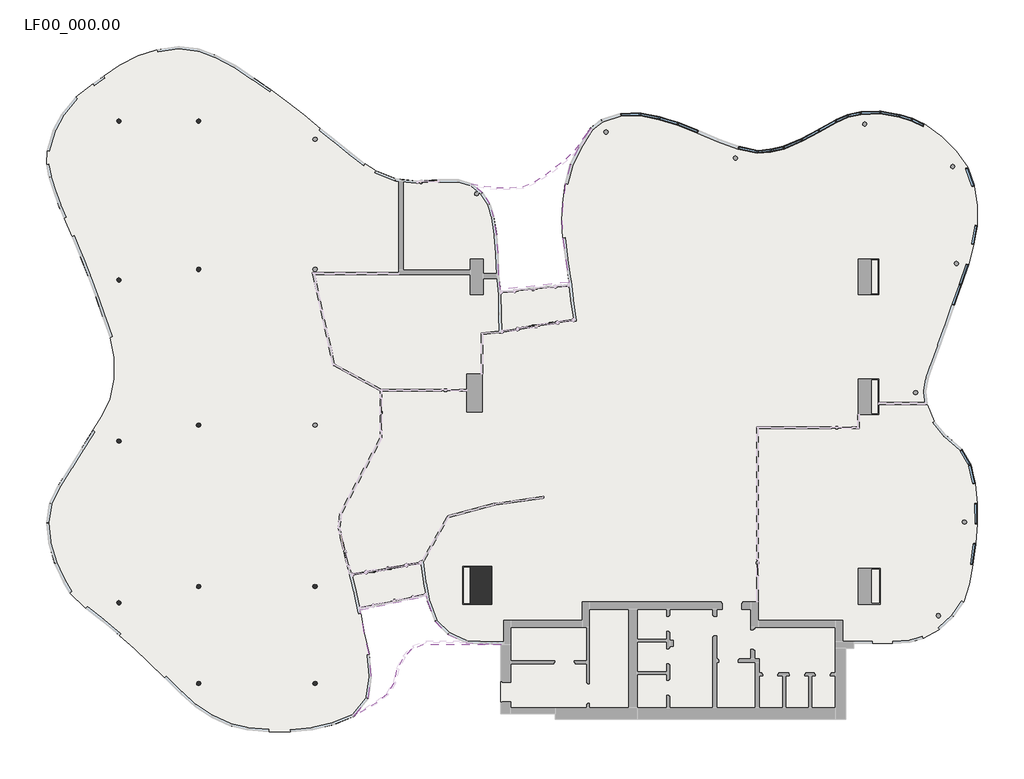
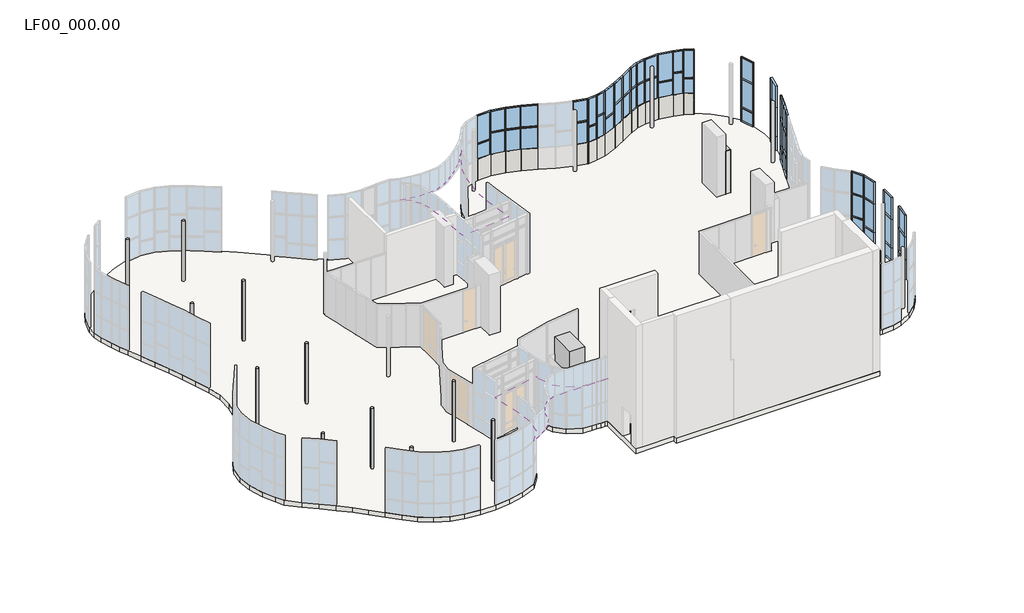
# One storey, part 6 of 8: 24 windows, 19 walls, 12 columns, 2 coverings, 1 slab.
"""IFC4 building model written with IfcOpenShell, lengths in millimetres."""

from ifc_helpers import new_model, si_unit, frame, origin, origin_with_axes, place, context, project, spatial, polyline, outline, extrude, faceted_brep, transform, mapped, element, save
from components import pilastro_in_calcestruzzo_circolare_200_a869e825, pilastro_in_calcestruzzo_rettangolare_0d96be71, window_13cf38aa, window_04857959, window_36c3ef3e, window_b5501017, window_16313ac1, window_0b33e4cf, window_09fc64a4, window_a744d560, window_feeec594, window_dc9eccbe, window_f09dee8b

model = new_model("IFC4")

# Units and contexts
model_context = context("Model", 3, world=origin())
ifc_project = project(units=[si_unit("LENGTHUNIT", "METRE", prefix="MILLI")], contexts=[model_context])

# Site, building, storey
site = spatial("IfcSite", under=ifc_project)
building = spatial("IfcBuilding", under=site)
storey = spatial("IfcBuildingStorey", under=building, Name="LF00_000.00", Elevation=0.0)

# Columns
placement = place(None, origin())
pilastro_in_calcestruzzo_circolare_200_shape = pilastro_in_calcestruzzo_circolare_200_a869e825(model_context)
element("IfcColumn", 1, ObjectType="Pilastro in calcestruzzo - Circolare : 200", at=placement, inside=storey, context=model_context, shape_type="MappedRepresentation", body=[
    mapped(pilastro_in_calcestruzzo_circolare_200_shape, transform((-103126.4247466, 2066.2733792, 0.0), x_axis=(1.0, 0.0, 0.0), y_axis=(0.0, 1.0, 0.0), z_axis=(0.0, 0.0, 1.0))),
])
element("IfcColumn", 2, ObjectType="Pilastro in calcestruzzo - Circolare : 200", at=placement, inside=storey, context=model_context, shape_type="MappedRepresentation", body=[
    mapped(pilastro_in_calcestruzzo_circolare_200_shape, transform((-99426.0071195, 2816.2402341, 0.0), x_axis=(1.0, 0.0, 0.0), y_axis=(0.0, 1.0, 0.0), z_axis=(0.0, 0.0, 1.0))),
])
element("IfcColumn", 3, ObjectType="Pilastro in calcestruzzo - Circolare : 200", at=placement, inside=storey, context=model_context, shape_type="MappedRepresentation", body=[
    mapped(pilastro_in_calcestruzzo_circolare_200_shape, transform((-94028.3747, 2816.234202, 0.0), x_axis=(1.0, 0.0, 0.0), y_axis=(0.0, 1.0, 0.0), z_axis=(0.0, 0.0, 1.0))),
])
element("IfcColumn", 4, ObjectType="Pilastro in calcestruzzo - Circolare : 200", at=placement, inside=storey, context=model_context, shape_type="MappedRepresentation", body=[
    mapped(pilastro_in_calcestruzzo_circolare_200_shape, transform((-103126.4247466, 9566.2462002, 0.0), x_axis=(1.0, 0.0, 0.0), y_axis=(0.0, 1.0, 0.0), z_axis=(0.0, 0.0, 1.0))),
])
element("IfcColumn", 5, ObjectType="Pilastro in calcestruzzo - Circolare : 200", at=placement, inside=storey, context=model_context, shape_type="MappedRepresentation", body=[
    mapped(pilastro_in_calcestruzzo_circolare_200_shape, transform((-99426.1905039, 10316.2342028, 0.0), x_axis=(1.0, 0.0, 0.0), y_axis=(0.0, 1.0, 0.0), z_axis=(0.0, 0.0, 1.0))),
])
element("IfcColumn", 6, ObjectType="Pilastro in calcestruzzo - Circolare : 200", at=placement, inside=storey, context=model_context, shape_type="MappedRepresentation", body=[
    mapped(pilastro_in_calcestruzzo_circolare_200_shape, transform((-103126.4247466, 17051.2461982, 0.0), x_axis=(1.0, 0.0, 0.0), y_axis=(0.0, 1.0, 0.0), z_axis=(0.0, 0.0, 1.0))),
])
element("IfcColumn", 7, ObjectType="Pilastro in calcestruzzo - Circolare : 200", at=placement, inside=storey, context=model_context, shape_type="MappedRepresentation", body=[
    mapped(pilastro_in_calcestruzzo_circolare_200_shape, transform((-103126.4247466, 24428.4209309, 0.0), x_axis=(1.0, 0.0, 0.0), y_axis=(0.0, 1.0, 0.0), z_axis=(0.0, 0.0, 1.0))),
])
element("IfcColumn", 8, ObjectType="Pilastro in calcestruzzo - Circolare : 200", at=placement, inside=storey, context=model_context, shape_type="MappedRepresentation", body=[
    mapped(pilastro_in_calcestruzzo_circolare_200_shape, transform((-99426.6293798, 24428.4209309, 0.0), x_axis=(1.0, 0.0, 0.0), y_axis=(0.0, 1.0, 0.0), z_axis=(0.0, 0.0, 1.0))),
])
element("IfcColumn", 9, ObjectType="Pilastro in calcestruzzo - Circolare : 200", at=placement, inside=storey, context=model_context, shape_type="MappedRepresentation", body=[
    mapped(pilastro_in_calcestruzzo_circolare_200_shape, transform((-99426.0071195, 17543.4210334, 0.0), x_axis=(1.0, 0.0, 0.0), y_axis=(0.0, 1.0, 0.0), z_axis=(0.0, 0.0, 1.0))),
])
element("IfcColumn", 10, ObjectType="Pilastro in calcestruzzo - Circolare : 200", at=placement, inside=storey, context=model_context, shape_type="MappedRepresentation", body=[
    mapped(pilastro_in_calcestruzzo_circolare_200_shape, transform((-94026.0071188, -1683.7597657, 0.0), x_axis=(1.0, 0.0, 0.0), y_axis=(0.0, 1.0, 0.0), z_axis=(0.0, 0.0, 1.0))),
])
element("IfcColumn", 11, ObjectType="Pilastro in calcestruzzo - Circolare : 200", at=placement, inside=storey, context=model_context, shape_type="MappedRepresentation", body=[
    mapped(pilastro_in_calcestruzzo_circolare_200_shape, transform((-99426.0070374, -1683.7597657, 0.0), x_axis=(1.0, 0.0, 0.0), y_axis=(0.0, 1.0, 0.0), z_axis=(0.0, 0.0, 1.0))),
])
pilastro_in_calcestruzzo_rettangolare_shape = pilastro_in_calcestruzzo_rettangolare_0d96be71(model_context)
element("IfcColumn", 12, ObjectType="Pilastro in calcestruzzo - Rettangolare : 176*99.5", at=placement, inside=storey, context=model_context, shape_type="MappedRepresentation", body=[
    mapped(pilastro_in_calcestruzzo_rettangolare_shape, transform((-86323.9250396, 2871.2501226, 0.0), x_axis=(1.0, 0.0, 0.0), y_axis=(0.0, 1.0, 0.0), z_axis=(0.0, 0.0, 1.0))),
])

# Coverings
element("IfcCovering", 13, ObjectType="Controsoffitto Metallico microforato", at=placement, inside=storey, context=model_context, shape_type="SweptSolid", body=[
    extrude(outline(polyline([(-91677.0175641, -2886.4786947), (-92200.4377402, -3180.3333514), (-91553.5470426, -2381.4898684), (-91412.3990165, -1351.2274852), (-91516.0935278, -338.6160329), (-91733.6585348, 645.5569404), (-91910.0168624, 1578.5002431), (-91941.9029431, 1730.4202957), (-88860.7779395, 2369.2906211), (-88820.3909063, 2156.9133359), (-88458.3874944, 1192.68486), (-87867.9442577, 595.8822543), (-87017.009063, 204.1262669), (-86391.3637679, 164.5219089), (-86111.8569926, 154.3904593), (-85831.161667, 145.7170211), (-85549.8072321, 140.1888444), (-85408.6351, 139.7396776), (-85408.6351, 99.8318174), (-89008.5252129, 99.8318174), (-89570.9388873, -109.5280867), (-89969.628883, -557.9099411), (-90251.704652, -1084.2470908), (-90376.9626514, -1672.9329573), (-90698.4482568, -2187.3967962), (-91160.1861246, -2577.9666527), (-91677.0175641, -2886.4786947)])), frame((0.0, 0.0, 2970.0), z_axis=(0.0, 0.0, 1.0), x_axis=(1.0, 0.0, 0.0)), (0.0, 0.0, 1.0), 50.0),
])
element("IfcCovering", 14, ObjectType="Controsoffitto Metallico microforato", at=placement, inside=storey, context=model_context, shape_type="SweptSolid", body=[
    extrude(outline(polyline([(-86759.7979701, 21512.0378753), (-86182.7715823, 21411.2540067), (-85587.316499, 21337.5434658), (-84987.3419583, 21343.0707163), (-84389.220829, 21390.5166293), (-83836.8610259, 21624.8212344), (-83327.6041877, 21942.0868529), (-82847.3836063, 22301.7925566), (-82379.8867442, 22677.8865394), (-81943.9041987, 23090.7955225), (-81597.919868, 23580.993522), (-81264.3424426, 24079.7491919), (-81788.8304225, 23223.2913029), (-82196.2530475, 22408.4328228), (-82417.5970786, 21516.48725), (-82528.4547577, 20613.8038444), (-82572.219465, 19805.8936001), (-82524.0602295, 18998.1164423), (-82393.8982589, 18002.2146837), (-82247.3493413, 17012.1523787), (-82239.596971, 16938.7498), (-85431.961758, 16602.7333313), (-85502.0101866, 17277.9009012), (-85537.5352456, 18285.3070647), (-85605.1802049, 19138.4306388), (-85734.8467686, 19989.2700675), (-85913.9589841, 20584.8651804), (-86263.3124006, 21109.2206513), (-86759.7979701, 21512.0378753)])), frame((0.0, 0.0, 2970.0), z_axis=(0.0, 0.0, 1.0), x_axis=(1.0, 0.0, 0.0)), (0.0, 0.0, 1.0), 50.0),
])

# Slab
element("IfcSlab", 15, ObjectType="CS.Pv.G.00.cls3 (architettonico)", at=placement, inside=storey, context=model_context, shape_type="Brep", body=[
    faceted_brep([(-88874.7902461, 2442.9750542, -320.0), (-89429.4630607, 2327.9638161, -320.0), (-91375.4723393, 1924.4593884, -320.0), (-91957.3077632, 1803.8159915, -320.0), (-91910.0168624, 1578.5002431, -320.0), (-91733.6585348, 645.5569404, -320.0), (-91516.0935278, -338.6160329, -320.0), (-91412.3990165, -1351.2274852, -320.0), (-91553.5470426, -2381.4898684, -320.0), (-92216.1284598, -3199.7097765, -320.0), (-93167.6374509, -3603.6013806, -320.0), (-94156.5032131, -3831.8990303, -320.0), (-95163.4393168, -3937.491594, -320.0), (-96172.688601, -3915.3504937, -320.0), (-97179.5093888, -3829.3922178, -320.0), (-97975.1895029, -3641.9782023, -320.0), (-98843.9869944, -3240.0572218, -320.0), (-99611.5987908, -2741.9308862, -320.0), (-100285.6425974, -2133.6319326, -320.0), (-100993.3273187, -1421.2416379, -320.0), (-101707.2567577, -721.0239888, -320.0), (-102391.653017, -76.6624752, -320.0), (-103103.3175489, 552.6495254, -320.0), (-103872.5991151, 1191.5594344, -320.0), (-104666.4283344, 1808.6399331, -320.0), (-105397.8019393, 2517.6871413, -320.0), (-105715.1089914, 3048.7541249, -320.0), (-106095.2860849, 3878.3419291, -320.0), (-106383.7873899, 4852.6466026, -320.0), (-106483.1918935, 5769.3953385, -320.0), (-106342.0865387, 6686.9422719, -320.0), (-105937.4470379, 7514.3333881, -320.0), (-105394.2906735, 8360.0983426, -320.0), (-104865.0532471, 9208.3311559, -320.0), (-104328.3936063, 10051.5425779, -320.0), (-103892.4392931, 10765.9359457, -320.0), (-103529.1745208, 11522.9948447, -320.0), (-103338.5026609, 12453.6635516, -320.0), (-103342.0618248, 13453.6572177, -320.0), (-103537.656141, 14383.3038514, -320.0), (-103864.8043859, 15328.2768806, -320.0), (-104193.2986319, 16272.7828521, -320.0), (-104543.7834114, 17209.3512796, -320.0), (-104913.4076517, 18138.5325972, -320.0), (-105299.957576, 19060.8010809, -320.0), (-105669.8396476, 19924.9696137, -320.0), (-105907.7335787, 20478.7895027, -320.0), (-106113.9405936, 21047.0287436, -320.0), (-106364.8445347, 21814.9716195, -320.0), (-106481.7472998, 22421.3816962, -320.0), (-106460.1541245, 23045.1891798, -320.0), (-106166.7144436, 24025.6096694, -320.0), (-105773.3614862, 24745.1903214, -320.0), (-105123.0653486, 25531.5625206, -320.0), (-104325.0260041, 26155.3760285, -320.0), (-103834.5013054, 26507.2231405, -320.0), (-103088.7435811, 27024.2627888, -320.0), (-102223.7440156, 27449.9058956, -320.0), (-101356.052452, 27742.8972175, -320.0), (-100346.2510455, 27886.7760529, -320.0), (-99422.915713, 27772.0572538, -320.0), (-98622.5216484, 27471.86813, -320.0), (-97723.3100606, 27007.3453763, -320.0), (-96917.9935632, 26455.5910436, -320.0), (-96072.3028711, 25876.1851198, -320.0), (-95344.3109987, 25330.9598581, -320.0), (-94547.285049, 24722.9116792, -320.0), (-93776.9232472, 24083.8764644, -320.0), (-93119.3577327, 23562.9988649, -320.0), (-92419.8348568, 22996.7235378, -320.0), (-91713.7755627, 22438.6193601, -320.0), (-91208.1741421, 22115.5602269, -320.0), (-90279.666342, 21744.247333, -320.0), (-89284.9713812, 21641.3788013, -320.0), (-88283.7803348, 21702.0035844, -320.0), (-87365.282987, 21702.0035844, -320.0), (-86755.7579113, 21508.7600252, -320.0), (-86263.3124006, 21109.2206513, -320.0), (-85913.9589841, 20584.8651804, -320.0), (-85734.8467686, 19989.2700675, -320.0), (-85605.1802049, 19138.4306388, -320.0), (-85537.5352456, 18285.3070647, -320.0), (-85502.0455523, 17278.9037901, -320.0), (-85417.314636, 16473.9075509, -320.0), (-84767.1807421, 16542.3382316, -320.0), (-82877.6190302, 16741.226484, -320.0), (-82226.0513316, 16809.8080816, -320.0), (-82247.3493413, 17012.1523787, -320.0), (-82393.8982589, 18002.2146837, -320.0), (-82524.0602295, 18998.1164423, -320.0), (-82572.219465, 19805.8936001, -320.0), (-82528.4547577, 20613.8038444, -320.0), (-82417.5970786, 21516.48725, -320.0), (-82196.2530475, 22408.4328228, -320.0), (-81788.8304225, 23223.2913029, -320.0), (-81254.9568455, 24095.0753176, -320.0), (-80750.769451, 24490.98556, -320.0), (-79862.5535611, 24773.453213, -320.0), (-78937.4982511, 24801.5453594, -320.0), (-78039.1587893, 24620.4462364, -320.0), (-77169.82212, 24354.5831881, -320.0), (-76236.2604289, 23981.2384295, -320.0), (-75316.2665023, 23586.0957587, -320.0), (-74373.7853755, 23251.8363898, -320.0), (-73495.8476486, 23053.7824888, -320.0), (-72894.2106543, 23117.4843495, -320.0), (-72303.9358543, 23250.1518306, -320.0), (-71474.8193889, 23600.2459419, -320.0), (-70682.6036128, 24027.3222397, -320.0), (-69892.8400099, 24466.6129569, -320.0), (-69330.2482184, 24722.5987702, -320.0), (-68719.5537624, 24851.407495, -320.0), (-67800.632746, 24893.3700962, -320.0), (-66900.0698643, 24721.7902677, -320.0), (-66307.0763644, 24545.8295929, -320.0), (-65749.9626561, 24270.6671615, -320.0), (-64960.6223002, 23713.1408038, -320.0), (-64277.5958445, 23029.75124, -320.0), (-63745.7652367, 22276.5537107, -320.0), (-63439.9026742, 21405.8645551, -320.0), (-63293.7225503, 20500.4339177, -320.0), (-63297.7915098, 19583.2855224, -320.0), (-63463.1976511, 18685.7254631, -320.0), (-63706.9901412, 17759.6193026, -320.0), (-64037.4444842, 16811.3140084, -320.0), (-64372.840774, 15869.2083634, -320.0), (-64702.4680856, 14924.9091001, -320.0), (-65041.3783291, 13983.5300711, -320.0), (-65380.8969431, 13042.8870566, -320.0), (-65580.28029, 12471.6854451, -320.0), (-65692.7304395, 11877.2277394, -320.0), (-65612.4860449, 11277.5729744, -320.0), (-65294.4631206, 10489.3081588, -320.0), (-64789.2539614, 9869.0149172, -320.0), (-64020.9429884, 9203.381704, -320.0), (-63601.0503106, 8484.9265554, -320.0), (-63400.6596963, 7585.3587838, -320.0), (-63310.4764714, 6679.1912902, -320.0), (-63304.2295964, 5720.2852903, -320.0), (-63376.0040846, 4816.0871429, -320.0), (-63510.5154293, 3820.2911073, -320.0), (-63669.6638848, 2925.3391414, -320.0), (-63938.7175419, 2096.5186089, -320.0), (-64406.3241431, 1415.5272675, -320.0), (-65052.3145724, 827.6021848, -320.0), (-65817.409229, 407.9275897, -320.0), (-66418.2964904, 230.2148523, -320.0), (-67230.8066514, 172.3743374, -320.0), (-68184.3577345, 175.1296262, -320.0), (-69034.1798495, 175.1296262, -320.0), (-69034.1798495, -51.598808, -320.0), (-69413.995124, -51.598808, -320.0), (-69413.995124, -3341.598808, -320.0), (-82876.4250396, -3341.598808, -320.0), (-82876.4250396, -3091.598808, -320.0), (-85408.6351, -3091.598808, -320.0), (-85408.6351, 140.185115, -320.0), (-85549.6174274, 140.185115, -320.0), (-85831.161667, 145.7170211, -320.0), (-86111.8569926, 154.3904593, -320.0), (-86391.3637679, 164.5219089, -320.0), (-87017.009063, 204.1262669, -320.0), (-87867.9442577, 595.8822543, -320.0), (-88458.3874944, 1192.68486, -320.0), (-88820.3909063, 2156.9133359, -320.0), (-88874.7902461, 2442.9750542, 0.0), (-88820.3909063, 2156.9133359, 0.0), (-88458.3874944, 1192.68486, 0.0), (-87867.9442577, 595.8822543, 0.0), (-87017.009063, 204.1262669, 0.0), (-86391.3637679, 164.5219089, 0.0), (-86111.8569926, 154.3904593, 0.0), (-85831.161667, 145.7170211, 0.0), (-85549.6174274, 140.185115, 0.0), (-85408.6351, 140.185115, 0.0), (-85408.6351, -3091.598808, 0.0), (-82876.4250396, -3091.598808, 0.0), (-82876.4250396, -3341.598808, 0.0), (-69413.995124, -3341.598808, 0.0), (-69413.995124, -51.598808, 0.0), (-69034.1798495, -51.598808, 0.0), (-69034.1798495, 175.1296262, 0.0), (-68184.3577345, 175.1296262, 0.0), (-67230.8066514, 172.3743374, 0.0), (-66418.2964904, 230.2148523, 0.0), (-65817.409229, 407.9275897, 0.0), (-65052.3145724, 827.6021848, 0.0), (-64406.3241431, 1415.5272675, 0.0), (-63938.7175419, 2096.5186089, 0.0), (-63669.6638848, 2925.3391414, 0.0), (-63510.5154293, 3820.2911073, 0.0), (-63376.0040846, 4816.0871429, 0.0), (-63304.2295964, 5720.2852903, 0.0), (-63310.4764714, 6679.1912902, 0.0), (-63400.6596963, 7585.3587838, 0.0), (-63601.0503106, 8484.9265554, 0.0), (-64020.9429884, 9203.381704, 0.0), (-64789.2539614, 9869.0149172, 0.0), (-65294.4631206, 10489.3081588, 0.0), (-65612.4860449, 11277.5729744, 0.0), (-65692.7304395, 11877.2277394, 0.0), (-65580.28029, 12471.6854451, 0.0), (-65380.8969431, 13042.8870566, 0.0), (-65041.3783291, 13983.5300711, 0.0), (-64702.4680856, 14924.9091001, 0.0), (-64372.840774, 15869.2083634, 0.0), (-64037.4444842, 16811.3140084, 0.0), (-63706.9901412, 17759.6193026, 0.0), (-63463.1976511, 18685.7254631, 0.0), (-63297.7915098, 19583.2855224, 0.0), (-63293.7225503, 20500.4339177, 0.0), (-63439.9026742, 21405.8645551, 0.0), (-63745.7652367, 22276.5537107, 0.0), (-64277.5958445, 23029.75124, 0.0), (-64960.6223002, 23713.1408038, 0.0), (-65749.9626561, 24270.6671615, 0.0), (-66307.0763644, 24545.8295929, 0.0), (-66900.0698643, 24721.7902677, 0.0), (-67800.632746, 24893.3700962, 0.0), (-68719.5537624, 24851.407495, 0.0), (-69330.2482184, 24722.5987702, 0.0), (-69892.8400099, 24466.6129569, 0.0), (-70682.6036128, 24027.3222397, 0.0), (-71474.8193889, 23600.2459419, 0.0), (-72303.9358543, 23250.1518306, 0.0), (-72894.2106543, 23117.4843495, 0.0), (-73495.8476486, 23053.7824888, 0.0), (-74373.7853755, 23251.8363898, 0.0), (-75316.2665023, 23586.0957587, 0.0), (-76236.2604289, 23981.2384295, 0.0), (-77169.82212, 24354.5831881, 0.0), (-78039.1587893, 24620.4462364, 0.0), (-78937.4982511, 24801.5453594, 0.0), (-79862.5535611, 24773.453213, 0.0), (-80750.769451, 24490.98556, 0.0), (-81254.9568455, 24095.0753176, 0.0), (-81788.8304225, 23223.2913029, 0.0), (-82196.2530475, 22408.4328228, 0.0), (-82417.5970786, 21516.48725, 0.0), (-82528.4547577, 20613.8038444, 0.0), (-82572.219465, 19805.8936001, 0.0), (-82524.0602295, 18998.1164423, 0.0), (-82393.8982589, 18002.2146837, 0.0), (-82247.3493413, 17012.1523787, 0.0), (-82226.0513316, 16809.8080816, 0.0), (-82877.6190302, 16741.226484, 0.0), (-84767.1807421, 16542.3382316, 0.0), (-85417.314636, 16473.9075509, 0.0), (-85502.0455523, 17278.9037901, 0.0), (-85537.5352456, 18285.3070647, 0.0), (-85605.1802049, 19138.4306388, 0.0), (-85734.8467686, 19989.2700675, 0.0), (-85913.9589841, 20584.8651804, 0.0), (-86263.3124006, 21109.2206513, 0.0), (-86755.7579113, 21508.7600252, 0.0), (-87365.282987, 21702.0035844, 0.0), (-88283.7803348, 21702.0035844, 0.0), (-89284.9713812, 21641.3788013, 0.0), (-90279.666342, 21744.247333, 0.0), (-91208.1741421, 22115.5602269, 0.0), (-91713.7755627, 22438.6193601, 0.0), (-92419.8348568, 22996.7235378, 0.0), (-93119.3577327, 23562.9988649, 0.0), (-93776.9232472, 24083.8764644, 0.0), (-94547.285049, 24722.9116792, 0.0), (-95344.3109987, 25330.9598581, 0.0), (-96072.3028711, 25876.1851198, 0.0), (-96917.9651809, 26455.5819717, 0.0), (-97723.3100606, 27007.3453763, 0.0), (-98622.5216484, 27471.86813, 0.0), (-99422.915713, 27772.0572538, 0.0), (-100346.2510455, 27886.7760529, 0.0), (-101356.052452, 27742.8972175, 0.0), (-102223.7440156, 27449.9058956, 0.0), (-103088.7435811, 27024.2627888, 0.0), (-103834.5013054, 26507.2231405, 0.0), (-104325.0260041, 26155.3760285, 0.0), (-105123.0653486, 25531.5625206, 0.0), (-105773.3614862, 24745.1903214, 0.0), (-106166.7144436, 24025.6096694, 0.0), (-106460.1541245, 23045.1891798, 0.0), (-106481.7472998, 22421.3816962, 0.0), (-106364.8445347, 21814.9716195, 0.0), (-106113.9405936, 21047.0287436, 0.0), (-105907.7335787, 20478.7895027, 0.0), (-105669.7887113, 19924.8508219, 0.0), (-105299.957576, 19060.8010809, 0.0), (-104913.4076517, 18138.5325972, 0.0), (-104543.7834114, 17209.3512796, 0.0), (-104193.2986319, 16272.7828521, 0.0), (-103864.8043859, 15328.2768806, 0.0), (-103537.656141, 14383.3038514, 0.0), (-103342.0618248, 13453.6572177, 0.0), (-103338.5026609, 12453.6635516, 0.0), (-103529.1745208, 11522.9948447, 0.0), (-103892.4392931, 10765.9359457, 0.0), (-104328.3936063, 10051.5425779, 0.0), (-104865.0532471, 9208.3311559, 0.0), (-105394.2906735, 8360.0983426, 0.0), (-105937.4470379, 7514.3333881, 0.0), (-106342.0865387, 6686.9422719, 0.0), (-106483.1918935, 5769.3953385, 0.0), (-106383.7873899, 4852.6466026, 0.0), (-106095.2860849, 3878.3419291, 0.0), (-105715.1089914, 3048.7541249, 0.0), (-105397.8019393, 2517.6871413, 0.0), (-104666.4283344, 1808.6399331, 0.0), (-103872.5991151, 1191.5594344, 0.0), (-103103.3175489, 552.6495254, 0.0), (-102391.653017, -76.6624752, 0.0), (-101707.2567577, -721.0239888, 0.0), (-100993.3273187, -1421.2416379, 0.0), (-100285.6425974, -2133.6319326, 0.0), (-99611.5987908, -2741.9308862, 0.0), (-98843.9869944, -3240.0572218, 0.0), (-97975.1895029, -3641.9782023, 0.0), (-97179.5093888, -3829.3922178, 0.0), (-96172.688601, -3915.3504937, 0.0), (-95163.4393168, -3937.491594, 0.0), (-94156.5032131, -3831.8990303, 0.0), (-93167.6374509, -3603.6013806, 0.0), (-92216.1284598, -3199.7097765, 0.0), (-91553.5470426, -2381.4898684, 0.0), (-91412.3990165, -1351.2274852, 0.0), (-91516.0935278, -338.6160329, 0.0), (-91733.6585348, 645.5569404, 0.0), (-91910.0168624, 1578.5002431, 0.0), (-91957.3077632, 1803.8159915, 0.0), (-91375.4723393, 1924.4593884, 0.0), (-89429.4630607, 2327.9638161, 0.0)], [[[0, 1, 2, 3, 4, 5, 6, 7, 8, 9, 10, 11, 12, 13, 14, 15, 16, 17, 18, 19, 20, 21, 22, 23, 24, 25, 26, 27, 28, 29, 30, 31, 32, 33, 34, 35, 36, 37, 38, 39, 40, 41, 42, 43, 44, 45, 46, 47, 48, 49, 50, 51, 52, 53, 54, 55, 56, 57, 58, 59, 60, 61, 62, 63, 64, 65, 66, 67, 68, 69, 70, 71, 72, 73, 74, 75, 76, 77, 78, 79, 80, 81, 82, 83, 84, 85, 86, 87, 88, 89, 90, 91, 92, 93, 94, 95, 96, 97, 98, 99, 100, 101, 102, 103, 104, 105, 106, 107, 108, 109, 110, 111, 112, 113, 114, 115, 116, 117, 118, 119, 120, 121, 122, 123, 124, 125, 126, 127, 128, 129, 130, 131, 132, 133, 134, 135, 136, 137, 138, 139, 140, 141, 142, 143, 144, 145, 146, 147, 148, 149, 150, 151, 152, 153, 154, 155, 156, 157, 158, 159, 160, 161, 162, 163, 164]], [[165, 166, 167, 168, 169, 170, 171, 172, 173, 174, 175, 176, 177, 178, 179, 180, 181, 182, 183, 184, 185, 186, 187, 188, 189, 190, 191, 192, 193, 194, 195, 196, 197, 198, 199, 200, 201, 202, 203, 204, 205, 206, 207, 208, 209, 210, 211, 212, 213, 214, 215, 216, 217, 218, 219, 220, 221, 222, 223, 224, 225, 226, 227, 228, 229, 230, 231, 232, 233, 234, 235, 236, 237, 238, 239, 240, 241, 242, 243, 244, 245, 246, 247, 248, 249, 250, 251, 252, 253, 254, 255, 256, 257, 258, 259, 260, 261, 262, 263, 264, 265, 266, 267, 268, 269, 270, 271, 272, 273, 274, 275, 276, 277, 278, 279, 280, 281, 282, 283, 284, 285, 286, 287, 288, 289, 290, 291, 292, 293, 294, 295, 296, 297, 298, 299, 300, 301, 302, 303, 304, 305, 306, 307, 308, 309, 310, 311, 312, 313, 314, 315, 316, 317, 318, 319, 320, 321, 322, 323, 324, 325, 326, 327, 328, 329]], [[1, 0, 165, 329]], [[2, 1, 329, 328]], [[3, 2, 328, 327]], [[4, 3, 327, 326]], [[5, 4, 326, 325]], [[6, 5, 325, 324]], [[7, 6, 324, 323]], [[8, 7, 323, 322]], [[9, 8, 322, 321]], [[10, 9, 321, 320]], [[11, 10, 320, 319]], [[12, 11, 319, 318]], [[13, 12, 318, 317]], [[14, 13, 317, 316]], [[15, 14, 316, 315]], [[16, 15, 315, 314]], [[17, 16, 314, 313]], [[18, 17, 313, 312]], [[19, 18, 312, 311]], [[20, 19, 311, 310]], [[21, 20, 310, 309]], [[22, 21, 309, 308]], [[23, 22, 308, 307]], [[24, 23, 307, 306]], [[25, 24, 306, 305]], [[26, 25, 305, 304]], [[27, 26, 304, 303]], [[28, 27, 303, 302]], [[29, 28, 302, 301]], [[30, 29, 301, 300]], [[31, 30, 300, 299]], [[32, 31, 299, 298]], [[33, 32, 298, 297]], [[34, 33, 297, 296]], [[35, 34, 296, 295]], [[36, 35, 295, 294]], [[37, 36, 294, 293]], [[38, 37, 293, 292]], [[39, 38, 292, 291]], [[40, 39, 291, 290]], [[41, 40, 290, 289]], [[42, 41, 289, 288]], [[43, 42, 288, 287]], [[44, 43, 287, 286]], [[45, 44, 286, 285]], [[46, 45, 285, 284]], [[47, 46, 284, 283]], [[48, 47, 283, 282]], [[49, 48, 282, 281]], [[50, 49, 281, 280]], [[51, 50, 280, 279]], [[52, 51, 279, 278]], [[53, 52, 278, 277]], [[54, 53, 277, 276]], [[55, 54, 276, 275]], [[56, 55, 275, 274]], [[57, 56, 274, 273]], [[58, 57, 273, 272]], [[59, 58, 272, 271]], [[60, 59, 271, 270]], [[61, 60, 270, 269]], [[62, 61, 269, 268]], [[63, 62, 268, 267]], [[64, 63, 267, 266]], [[65, 64, 266, 265]], [[66, 65, 265, 264]], [[67, 66, 264, 263]], [[68, 67, 263, 262]], [[69, 68, 262, 261]], [[70, 69, 261, 260]], [[71, 70, 260, 259]], [[72, 71, 259, 258]], [[73, 72, 258, 257]], [[74, 73, 257, 256]], [[75, 74, 256, 255]], [[76, 75, 255, 254]], [[77, 76, 254, 253]], [[78, 77, 253, 252]], [[79, 78, 252, 251]], [[80, 79, 251, 250]], [[81, 80, 250, 249]], [[82, 81, 249, 248]], [[83, 82, 248, 247]], [[84, 83, 247, 246]], [[85, 84, 246, 245]], [[86, 85, 245, 244]], [[87, 86, 244, 243]], [[88, 87, 243, 242]], [[89, 88, 242, 241]], [[90, 89, 241, 240]], [[91, 90, 240, 239]], [[92, 91, 239, 238]], [[93, 92, 238, 237]], [[94, 93, 237, 236]], [[95, 94, 236, 235]], [[96, 95, 235, 234]], [[97, 96, 234, 233]], [[98, 97, 233, 232]], [[99, 98, 232, 231]], [[100, 99, 231, 230]], [[101, 100, 230, 229]], [[102, 101, 229, 228]], [[103, 102, 228, 227]], [[104, 103, 227, 226]], [[105, 104, 226, 225]], [[106, 105, 225, 224]], [[107, 106, 224, 223]], [[108, 107, 223, 222]], [[109, 108, 222, 221]], [[110, 109, 221, 220]], [[111, 110, 220, 219]], [[112, 111, 219, 218]], [[113, 112, 218, 217]], [[114, 113, 217, 216]], [[115, 114, 216, 215]], [[116, 115, 215, 214]], [[117, 116, 214, 213]], [[118, 117, 213, 212]], [[119, 118, 212, 211]], [[120, 119, 211, 210]], [[121, 120, 210, 209]], [[122, 121, 209, 208]], [[123, 122, 208, 207]], [[124, 123, 207, 206]], [[125, 124, 206, 205]], [[126, 125, 205, 204]], [[127, 126, 204, 203]], [[128, 127, 203, 202]], [[129, 128, 202, 201]], [[130, 129, 201, 200]], [[131, 130, 200, 199]], [[132, 131, 199, 198]], [[133, 132, 198, 197]], [[134, 133, 197, 196]], [[135, 134, 196, 195]], [[136, 135, 195, 194]], [[137, 136, 194, 193]], [[138, 137, 193, 192]], [[139, 138, 192, 191]], [[140, 139, 191, 190]], [[141, 140, 190, 189]], [[142, 141, 189, 188]], [[143, 142, 188, 187]], [[144, 143, 187, 186]], [[145, 144, 186, 185]], [[146, 145, 185, 184]], [[147, 146, 184, 183]], [[148, 147, 183, 182]], [[149, 148, 182, 181]], [[150, 149, 181, 180]], [[151, 150, 180, 179]], [[152, 151, 179, 178]], [[153, 152, 178, 177]], [[154, 153, 177, 176]], [[155, 154, 176, 175]], [[156, 155, 175, 174]], [[157, 156, 174, 173]], [[158, 157, 173, 172]], [[159, 158, 172, 171]], [[160, 159, 171, 170]], [[161, 160, 170, 169]], [[162, 161, 169, 168]], [[163, 162, 168, 167]], [[164, 163, 167, 166]], [[0, 164, 166, 165]]]),
])

# Walls
element("IfcWall", 16, ObjectType="CG_003_ND", at=placement, inside=storey, context=model_context, shape_type="Brep", body=[
    faceted_brep([(-68226.4248066, 17991.2461654, 0.0), (-67901.4248066, 17991.2461654, 0.0), (-67876.4248066, 17991.2461654, 0.0), (-67876.4248066, 17991.2461654, 3000.0), (-67901.4248066, 17991.2461654, 3000.0), (-68226.4248066, 17991.2461654, 3000.0), (-68226.4248066, 18016.2461654, 0.0), (-68226.4248066, 18016.2461654, 3000.0), (-67876.4248066, 18016.2461654, 3000.0), (-67876.4248066, 18016.2461654, 0.0)], [[[0, 1, 2, 3, 4, 5]], [[6, 7, 8, 9]], [[2, 1, 0, 6, 9]], [[5, 4, 3, 8, 7]], [[0, 5, 7, 6]], [[3, 2, 9, 8]]]),
])
element("IfcWall", 17, ObjectType="CG_003_ND", at=placement, inside=storey, context=model_context, shape_type="Brep", body=[
    faceted_brep([(-67901.4248066, 17991.2461654, 0.0), (-67901.4248066, 16391.2461654, 0.0), (-67901.4248066, 16366.2461654, 0.0), (-67901.4248066, 16366.2461654, 3000.0), (-67901.4248066, 16391.2461654, 3000.0), (-67901.4248066, 17991.2461654, 3000.0), (-67876.4248066, 17991.2461654, 0.0), (-67876.4248066, 17991.2461654, 3000.0), (-67876.4248066, 16366.2461654, 3000.0), (-67876.4248066, 16366.2461654, 0.0)], [[[0, 1, 2, 3, 4, 5]], [[6, 7, 8, 9]], [[2, 1, 0, 6, 9]], [[5, 4, 3, 8, 7]], [[0, 5, 7, 6]], [[3, 2, 9, 8]]]),
])
element("IfcWall", 18, ObjectType="CG_003_ND", at=placement, inside=storey, context=model_context, shape_type="SweptSolid", body=[
    extrude(outline(polyline([(-68226.4248066, 16391.2461654), (-67901.4248066, 16391.2461654), (-67901.4248066, 16366.2461654), (-68226.4248066, 16366.2461654), (-68226.4248066, 16391.2461654)])), origin_with_axes(), (0.0, 0.0, 1.0), 3000.0),
])
element("IfcWall", 19, ObjectType="CG_003_ND", at=placement, inside=storey, context=model_context, shape_type="SweptSolid", body=[
    extrude(outline(polyline([(-79845.5576032, 24673.9232471), (-78945.9723153, 24701.2419181), (-78948.0908313, 24676.1660577), (-79841.3086137, 24649.0407556), (-79845.5576032, 24673.9232471)])), origin_with_axes(), (0.0, 0.0, 1.0), 1500.0),
])
element("IfcWall", 20, ObjectType="CG_003_ND", at=placement, inside=storey, context=model_context, shape_type="SweptSolid", body=[
    extrude(outline(polyline([(-78945.9723153, 24701.2419181), (-78063.7210496, 24523.3860659), (-78069.8616146, 24499.1210233), (-78948.0908313, 24676.1660577), (-78945.9723153, 24701.2419181)])), origin_with_axes(), (0.0, 0.0, 1.0), 1500.0),
])
element("IfcWall", 21, ObjectType="CG_003_ND", at=placement, inside=storey, context=model_context, shape_type="SweptSolid", body=[
    extrude(outline(polyline([(-78063.7210496, 24523.3860659), (-77203.0689597, 24260.1789607), (-77211.3806696, 24236.5779039), (-78069.8616146, 24499.1210233), (-78063.7210496, 24523.3860659)])), origin_with_axes(), (0.0, 0.0, 1.0), 1500.0),
])
element("IfcWall", 22, ObjectType="CG_003_ND", at=placement, inside=storey, context=model_context, shape_type="SweptSolid", body=[
    extrude(outline(polyline([(-77203.0689597, 24260.1789607), (-76274.5648628, 23888.8568068), (-76284.1409712, 23865.7614012), (-77211.3806696, 24236.5779039), (-77203.0689597, 24260.1789607)])), origin_with_axes(), (0.0, 0.0, 1.0), 1500.0),
])
element("IfcWall", 23, ObjectType="CG_003_ND", at=placement, inside=storey, context=model_context, shape_type="SweptSolid", body=[
    extrude(outline(polyline([(-74401.5995982, 23155.5980325), (-73501.742556, 22952.5993549), (-73503.2162829, 22927.3035714), (-74408.5531539, 23131.5384431), (-74401.5995982, 23155.5980325)])), origin_with_axes(), (0.0, 0.0, 1.0), 1500.0),
])
element("IfcWall", 24, ObjectType="CG_003_ND", at=placement, inside=storey, context=model_context, shape_type="SweptSolid", body=[
    extrude(outline(polyline([(-73501.742556, 22952.5993549), (-72877.9274498, 23018.6494538), (-72873.8566487, 22993.9407298), (-73503.2162829, 22927.3035714), (-73501.742556, 22952.5993549)])), origin_with_axes(), (0.0, 0.0, 1.0), 1500.0),
])
element("IfcWall", 25, ObjectType="CG_003_ND", at=placement, inside=storey, context=model_context, shape_type="SweptSolid", body=[
    extrude(outline(polyline([(-72877.9274498, 23018.6494538), (-72273.2784882, 23154.5476062), (-72265.6141467, 23130.6465501), (-72873.8566487, 22993.9407298), (-72877.9274498, 23018.6494538)])), origin_with_axes(), (0.0, 0.0, 1.0), 1500.0),
])
element("IfcWall", 26, ObjectType="CG_003_ND", at=placement, inside=storey, context=model_context, shape_type="SweptSolid", body=[
    extrude(outline(polyline([(-72273.2784882, 23154.5476062), (-71431.5459176, 23509.968863), (-71420.7275497, 23487.3995933), (-72265.6141467, 23130.6465501), (-72273.2784882, 23154.5476062)])), origin_with_axes(), (0.0, 0.0, 1.0), 1500.0),
])
element("IfcWall", 27, ObjectType="CG_003_ND", at=placement, inside=storey, context=model_context, shape_type="SweptSolid", body=[
    extrude(outline(polyline([(-71431.5459176, 23509.968863), (-70634.5703799, 23939.6111049), (-70622.5620716, 23917.6833212), (-71420.7275497, 23487.3995933), (-71431.5459176, 23509.968863)])), origin_with_axes(), (0.0, 0.0, 1.0), 1500.0),
])
element("IfcWall", 28, ObjectType="CG_003_ND", at=placement, inside=storey, context=model_context, shape_type="SweptSolid", body=[
    extrude(outline(polyline([(-70634.5703799, 23939.6111049), (-69847.7544123, 24377.262257), (-69836.4830129, 24354.9245821), (-70622.5620716, 23917.6833212), (-70634.5703799, 23939.6111049)])), origin_with_axes(), (0.0, 0.0, 1.0), 1500.0),
])
element("IfcWall", 29, ObjectType="CG_003_ND", at=placement, inside=storey, context=model_context, shape_type="SweptSolid", body=[
    extrude(outline(polyline([(-69847.7544123, 24377.262257), (-69298.8459498, 24627.0219964), (-69290.9953826, 24603.1278029), (-69836.4830129, 24354.9245821), (-69847.7544123, 24377.262257)])), origin_with_axes(), (0.0, 0.0, 1.0), 1500.0),
])
element("IfcWall", 30, ObjectType="CG_003_ND", at=placement, inside=storey, context=model_context, shape_type="SweptSolid", body=[
    extrude(outline(polyline([(-69298.8459498, 24627.0219964), (-68706.8705587, 24751.8824639), (-68703.6997577, 24727.0012061), (-69290.9953826, 24603.1278029), (-69298.8459498, 24627.0219964)])), origin_with_axes(), (0.0, 0.0, 1.0), 1500.0),
])
element("IfcWall", 31, ObjectType="CG_003_ND", at=placement, inside=storey, context=model_context, shape_type="SweptSolid", body=[
    extrude(outline(polyline([(-68706.8705587, 24751.8824639), (-67807.8074784, 24792.9382508), (-67809.6011615, 24767.8302895), (-68703.6997577, 24727.0012061), (-68706.8705587, 24751.8824639)])), origin_with_axes(), (0.0, 0.0, 1.0), 1500.0),
])
element("IfcWall", 32, ObjectType="CG_003_ND", at=placement, inside=storey, context=model_context, shape_type="SweptSolid", body=[
    extrude(outline(polyline([(-67807.8074784, 24792.9382508), (-66923.7107167, 24624.4956314), (-66929.6209298, 24600.1719723), (-67809.6011615, 24767.8302895), (-67807.8074784, 24792.9382508)])), origin_with_axes(), (0.0, 0.0, 1.0), 1500.0),
])
element("IfcWall", 33, ObjectType="CG_003_ND", at=placement, inside=storey, context=model_context, shape_type="SweptSolid", body=[
    extrude(outline(polyline([(-66923.7107167, 24624.4956314), (-66343.7068798, 24452.3894168), (-66352.8645086, 24429.0293728), (-66929.6209298, 24600.1719723), (-66923.7107167, 24624.4956314)])), origin_with_axes(), (0.0, 0.0, 1.0), 1500.0),
])
element("IfcWall", 34, ObjectType="CG_003_ND", at=placement, inside=storey, context=model_context, shape_type="SweptSolid", body=[
    extrude(outline(polyline([(-66343.7068798, 24452.3894168), (-65801.2628719, 24184.4724551), (-65812.3338208, 24162.0574134), (-66352.8645086, 24429.0293728), (-66343.7068798, 24452.3894168)])), origin_with_axes(), (0.0, 0.0, 1.0), 1500.0),
])

# Windows
window_shape = window_13cf38aa(model_context)
element("IfcWindow", 35, ObjectType="TRP_CP_ARC_FI_V1 : AL_P02_90", at=placement, inside=storey, context=model_context, shape_type="MappedRepresentation", body=[
    mapped(window_shape, transform((-79397.2826632, 24737.559543, 0.0), x_axis=(-0.9995392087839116, -0.030354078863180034, 0.0), y_axis=(0.030354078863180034, -0.9995392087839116, 0.0), z_axis=(0.0, 0.0, 1.0))),
])
element("IfcWindow", 36, ObjectType="TRP_CP_ARC_FI_V1 : AL_P02_90", at=placement, inside=storey, context=model_context, shape_type="MappedRepresentation", body=[
    mapped(window_shape, transform((-71869.9279488, 23379.1368604, 0.0), x_axis=(-0.9212405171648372, -0.3889934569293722, 0.0), y_axis=(0.3889934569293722, -0.9212405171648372, 0.0), z_axis=(0.0, 0.0, 1.0))),
])
element("IfcWindow", 37, ObjectType="TRP_CP_ARC_FI_V1 : AL_P02_90", at=placement, inside=storey, context=model_context, shape_type="MappedRepresentation", body=[
    mapped(window_shape, transform((-67356.4011742, 24757.8334279, 0.0), x_axis=(-0.9823297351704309, 0.18715846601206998, 0.0), y_axis=(-0.18715846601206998, -0.9823297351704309, 0.0), z_axis=(0.0, 0.0, 1.0))),
])
window_2_shape = window_04857959(model_context)
element("IfcWindow", 38, ObjectType="TRP_CP_ARC_FI_V1 : VE_VF1_100", at=placement, inside=storey, context=model_context, shape_type="MappedRepresentation", body=[
    mapped(window_2_shape, transform((-63492.8543846, 4324.551837, 0.0), x_axis=(0.13386347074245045, 0.9909997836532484, 0.0), y_axis=(-0.9909997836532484, 0.13386347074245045, 0.0), z_axis=(0.0, 0.0, 1.0))),
])
element("IfcWindow", 39, ObjectType="TRP_CP_ARC_FI_V1 : AL_P03_100", at=placement, inside=storey, context=model_context, shape_type="MappedRepresentation", body=[
    mapped(window_2_shape, transform((-76720.2508035, 24120.9430886, 0.0), x_axis=(-0.9285040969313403, 0.3713221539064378, 0.0), y_axis=(-0.3713221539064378, -0.9285040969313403, 0.0), z_axis=(0.0, 0.0, 1.0))),
])
element("IfcWindow", 40, ObjectType="TRP_CP_ARC_FI_V1 : AL_P03_100", at=placement, inside=storey, context=model_context, shape_type="MappedRepresentation", body=[
    mapped(window_2_shape, transform((-64252.3546091, 16356.7272896, 0.0), x_axis=(0.3353872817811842, 0.9420803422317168, 0.0), y_axis=(-0.9420803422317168, 0.3353872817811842, 0.0), z_axis=(0.0, 0.0, 1.0))),
])
window_3_shape = window_36c3ef3e(model_context)
element("IfcWindow", 41, ObjectType="TRP_CP_ARC_FI_V1 : VE_VF2_100", at=placement, inside=storey, context=model_context, shape_type="MappedRepresentation", body=[
    mapped(window_3_shape, transform((-63920.0187744, 17300.2379793, 0.0), x_axis=(0.3290615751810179, 0.9443084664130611, 0.0), y_axis=(-0.9443084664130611, 0.3290615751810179, 0.0), z_axis=(0.0, 0.0, 1.0))),
])
window_4_shape = window_b5501017(model_context)
element("IfcWindow", 42, ObjectType="TRP_CP_ARC_FI_V1 : AL_P01_90", at=placement, inside=storey, context=model_context, shape_type="MappedRepresentation", body=[
    mapped(window_4_shape, transform((-78494.9658017, 24661.3279512, 0.0), x_axis=(-0.980279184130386, 0.19761761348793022, 0.0), y_axis=(-0.19761761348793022, -0.980279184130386, 0.0), z_axis=(0.0, 0.0, 1.0))),
])
element("IfcWindow", 43, ObjectType="TRP_CP_ARC_FI_V1 : AL_P01_90", at=placement, inside=storey, context=model_context, shape_type="MappedRepresentation", body=[
    mapped(window_4_shape, transform((-77618.7723877, 24439.5965183, 0.0), x_axis=(-0.9562800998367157, 0.2924523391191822, 0.0), y_axis=(-0.2924523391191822, -0.9562800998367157, 0.0), z_axis=(0.0, 0.0, 1.0))),
])
element("IfcWindow", 44, ObjectType="TRP_CP_ARC_FI_V1 : AL_P01_90", at=placement, inside=storey, context=model_context, shape_type="MappedRepresentation", body=[
    mapped(window_4_shape, transform((-71054.9850399, 23769.7721032, 0.0), x_axis=(-0.8802397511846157, -0.4745292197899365, 0.0), y_axis=(0.4745292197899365, -0.8802397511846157, 0.0), z_axis=(0.0, 0.0, 1.0))),
])
element("IfcWindow", 45, ObjectType="TRP_CP_ARC_FI_V1 : AL_P01_90", at=placement, inside=storey, context=model_context, shape_type="MappedRepresentation", body=[
    mapped(window_4_shape, transform((-68259.6198956, 24822.3583063, 0.0), x_axis=(-0.9989589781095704, -0.045617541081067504, 0.0), y_axis=(0.045617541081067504, -0.9989589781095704, 0.0), z_axis=(0.0, 0.0, 1.0))),
])
element("IfcWindow", 46, ObjectType="TRP_CP_ARC_FI_V1 : VE_VF2_90", at=placement, inside=storey, context=model_context, shape_type="MappedRepresentation", body=[
    mapped(window_4_shape, transform((-63639.174802, 21822.2659486, 0.0), x_axis=(-0.3314327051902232, 0.9434788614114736, 0.0), y_axis=(-0.9434788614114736, -0.3314327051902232, 0.0), z_axis=(0.0, 0.0, 1.0))),
])
element("IfcWindow", 47, ObjectType="TRP_CP_ARC_FI_V1 : VE_VF2_90", at=placement, inside=storey, context=model_context, shape_type="MappedRepresentation", body=[
    mapped(window_4_shape, transform((-63430.1335955, 19141.0329823, 0.0), x_axis=(0.18123250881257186, 0.9834402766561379, 0.0), y_axis=(-0.9834402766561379, 0.18123250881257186, 0.0), z_axis=(0.0, 0.0, 1.0))),
])
element("IfcWindow", 48, ObjectType="TRP_CP_ARC_FI_V1 : VE_VF2_90", at=placement, inside=storey, context=model_context, shape_type="MappedRepresentation", body=[
    mapped(window_4_shape, transform((-63548.6146421, 8019.5838732, 0.0), x_axis=(-0.2174336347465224, 0.9760751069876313, 0.0), y_axis=(-0.9760751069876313, -0.2174336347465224, 0.0), z_axis=(0.0, 0.0, 1.0))),
])
window_5_shape = window_16313ac1(model_context)
element("IfcWindow", 49, ObjectType="TRP_CP_ARC_FI_V1 : AL_P01_60", at=placement, inside=storey, context=model_context, shape_type="MappedRepresentation", body=[
    mapped(window_5_shape, transform((-69594.8911635, 24547.2505641, 0.0), x_axis=(-0.9102065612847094, -0.4141545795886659, 0.0), y_axis=(0.4141545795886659, -0.9102065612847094, 0.0), z_axis=(0.0, 0.0, 1.0))),
])
window_6_shape = window_0b33e4cf(model_context)
element("IfcWindow", 50, ObjectType="TRP_CP_ARC_FI_V1 : VE_VF1_80", at=placement, inside=storey, context=model_context, shape_type="MappedRepresentation", body=[
    mapped(window_6_shape, transform((-63853.9284075, 8818.5204863, 0.0), x_axis=(-0.5045826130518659, 0.8633634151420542, 0.0), y_axis=(-0.8633634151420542, -0.5045826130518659, 0.0), z_axis=(0.0, 0.0, 1.0))),
])
window_7_shape = window_09fc64a4(model_context)
element("IfcWindow", 51, ObjectType="TRP_CP_ARC_FI_V1 : AL_P03_90", at=placement, inside=storey, context=model_context, shape_type="MappedRepresentation", body=[
    mapped(window_7_shape, transform((-73945.8195066, 23104.0351212, 0.0), x_axis=(-0.9754863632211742, 0.2200598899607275, 0.0), y_axis=(-0.2200598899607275, -0.9754863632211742, 0.0), z_axis=(0.0, 0.0, 1.0))),
])
element("IfcWindow", 52, ObjectType="TRP_CP_ARC_FI_V1 : AL_P03_90", at=placement, inside=storey, context=model_context, shape_type="MappedRepresentation", body=[
    mapped(window_7_shape, transform((-70265.0409119, 24202.3690642, 0.0), x_axis=(-0.8739067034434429, -0.4860936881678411, 0.0), y_axis=(0.4860936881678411, -0.8739067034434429, 0.0), z_axis=(0.0, 0.0, 1.0))),
])
window_8_shape = window_a744d560(model_context)
element("IfcWindow", 53, ObjectType="TRP_CP_ARC_FI_V1 : AL_P02_60.5", at=placement, inside=storey, context=model_context, shape_type="MappedRepresentation", body=[
    mapped(window_8_shape, transform((-73189.7645349, 23035.9113535, 0.0), x_axis=(-0.9944413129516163, -0.10529233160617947, 0.0), y_axis=(0.10529233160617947, -0.9944413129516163, 0.0), z_axis=(0.0, 0.0, 1.0))),
])
element("IfcWindow", 54, ObjectType="TRP_CP_ARC_FI_V1 : AL_P02_60.5", at=placement, inside=storey, context=model_context, shape_type="MappedRepresentation", body=[
    mapped(window_8_shape, transform((-66050.3429782, 24363.2610192, 0.0), x_axis=(-0.8966016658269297, 0.4428379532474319, 0.0), y_axis=(-0.4428379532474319, -0.8966016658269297, 0.0), z_axis=(0.0, 0.0, 1.0))),
])
window_9_shape = window_feeec594(model_context)
element("IfcWindow", 55, ObjectType="TRP_CP_ARC_FI_V1 : AL_P03_60.5", at=placement, inside=storey, context=model_context, shape_type="MappedRepresentation", body=[
    mapped(window_9_shape, transform((-72588.1089997, 23135.0350487, 0.0), x_axis=(-0.9756608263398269, -0.21928509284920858, 0.0), y_axis=(0.21928509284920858, -0.9756608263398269, 0.0), z_axis=(0.0, 0.0, 1.0))),
])
element("IfcWindow", 56, ObjectType="TRP_CP_ARC_FI_V1 : AL_P03_60.5", at=placement, inside=storey, context=model_context, shape_type="MappedRepresentation", body=[
    mapped(window_9_shape, transform((-69013.1773011, 24738.3758162, 0.0), x_axis=(-0.9784717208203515, -0.2063809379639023, 0.0), y_axis=(0.2063809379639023, -0.9784717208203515, 0.0), z_axis=(0.0, 0.0, 1.0))),
])
window_10_shape = window_dc9eccbe(model_context)
element("IfcWindow", 57, ObjectType="TRP_CP_ARC_FI_V1 : AL_P01_60.5", at=placement, inside=storey, context=model_context, shape_type="MappedRepresentation", body=[
    mapped(window_10_shape, transform((-66619.4851441, 24586.3767255, 0.0), x_axis=(-0.9586840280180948, 0.28447308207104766, 0.0), y_axis=(-0.28447308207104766, -0.9586840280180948, 0.0), z_axis=(0.0, 0.0, 1.0))),
])
window_11_shape = window_f09dee8b(model_context)
element("IfcWindow", 58, ObjectType="TRP_CP_ARC_FI_V1 : AL_P01_95", at=placement, inside=storey, context=model_context, shape_type="MappedRepresentation", body=[
    mapped(window_11_shape, transform((-63357.3508383, 6199.2384026, 0.0), x_axis=(-0.006514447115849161, 0.9999787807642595, 0.0), y_axis=(-0.9999787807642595, -0.006514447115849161, 0.0), z_axis=(0.0, 0.0, 1.0))),
])

save(model, "model.ifc")
